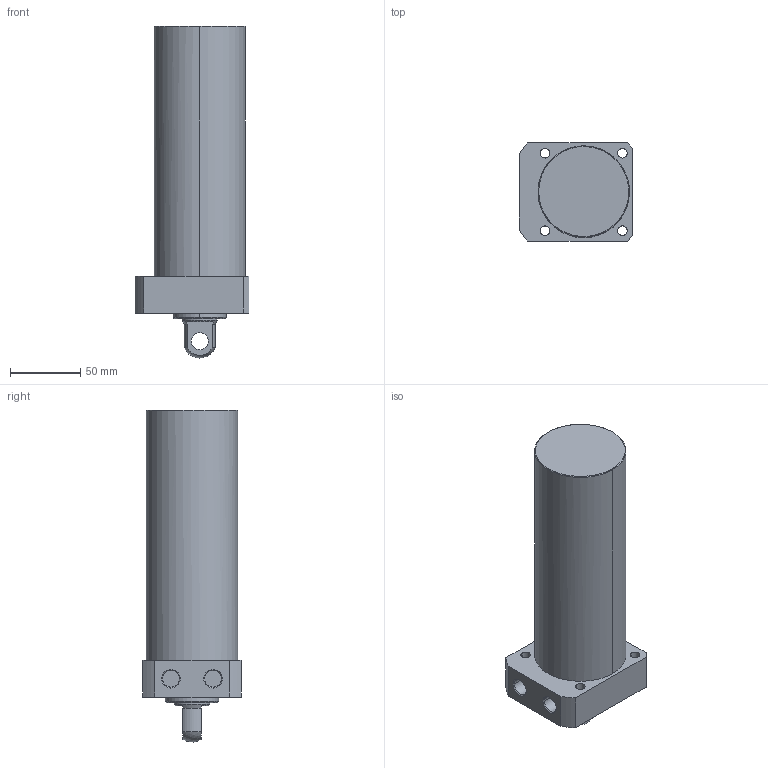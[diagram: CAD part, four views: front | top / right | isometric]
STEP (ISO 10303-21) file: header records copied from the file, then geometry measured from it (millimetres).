
FILE_DESCRIPTION((' '),'2;1');
FILE_NAME( 'TLLR-065CP-145.STEP.stp', '2025-10-24T16:35:05', (' '), ('--- Datakit www.datakit.com---'), ' Datakit CrossCadWare V2024.1 Dec 21 2023', 'Mastercam 2025', ' ');
FILE_SCHEMA(('AUTOMOTIVE_DESIGN { 1 0 10303 214 1 1 1 1 }'));
Length unit declared in the file: millimetre
Products named in the file (1): TLLR-065CP-145
Bounding box: 81 x 70 x 235.92 mm (x, y, z)
Volume: 738289.5 mm3; surface area: 60712.2 mm2
Topology: 1 solids, 1 shells, 57 faces, 164 edges, 116 vertices
Faces by surface type: cylinder 28, plane 18, cone 8, torus 2, sphere 1
Entity records: 2006 total; most frequent: DIRECTION 378, CARTESIAN_POINT 350, ORIENTED_EDGE 328, EDGE_CURVE 164, AXIS2_PLACEMENT_3D 160, VERTEX_POINT 116, CIRCLE 102, EDGE_LOOP 74
